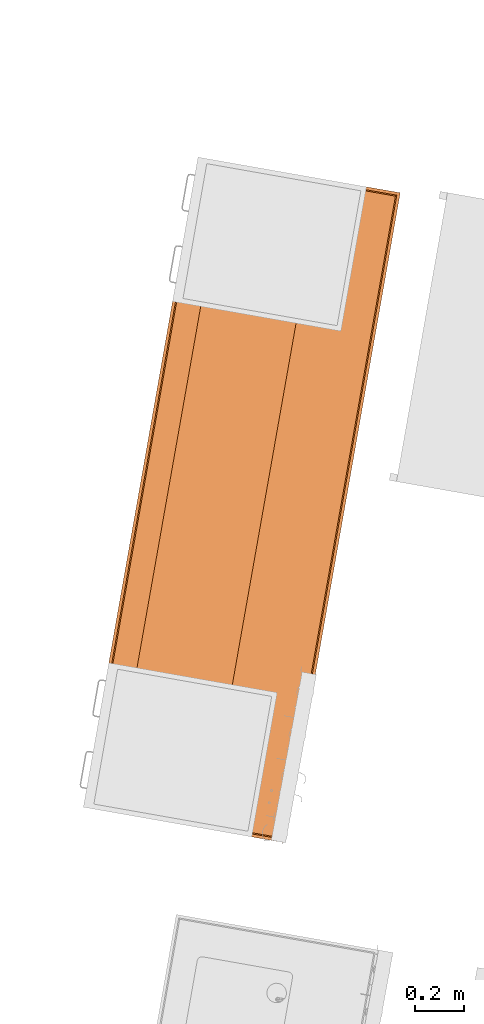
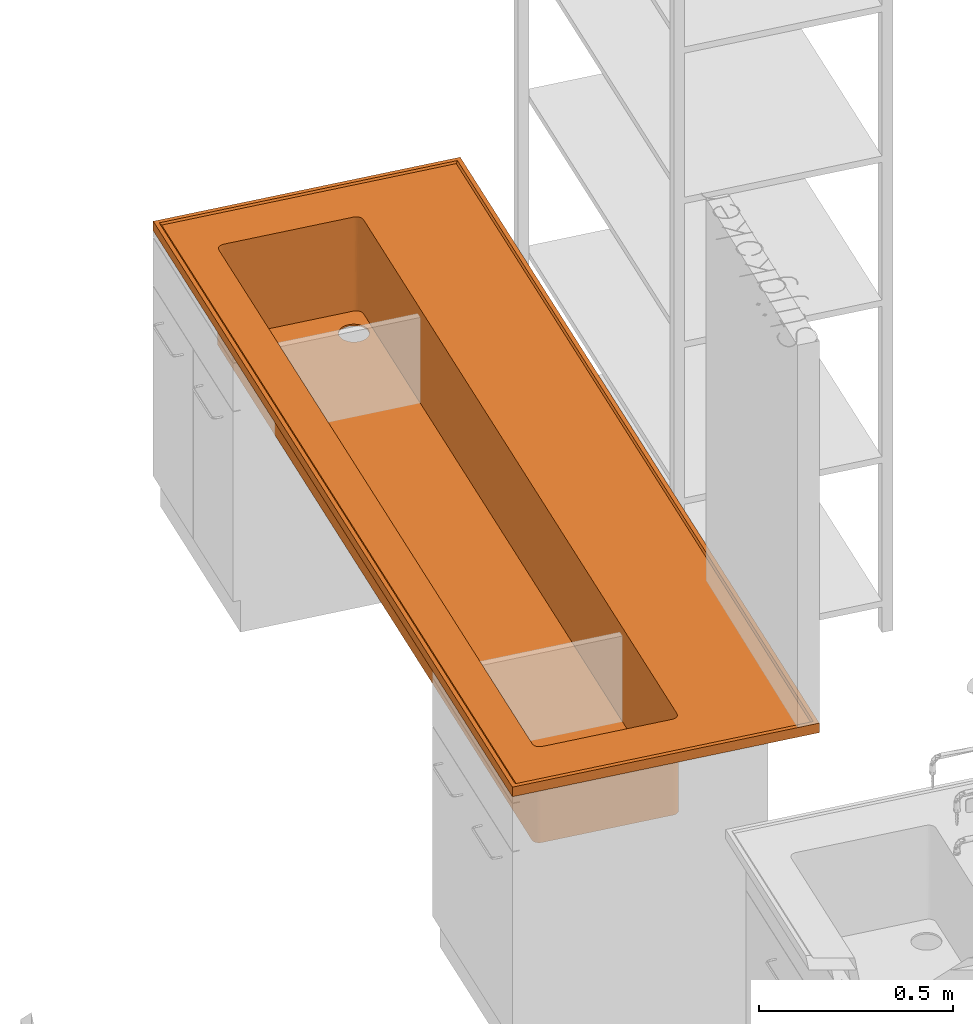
# One storey, part 31 of 32: 1 proxy.
"""IFC2X3 building model written with IfcOpenShell, lengths in metres."""

from ifc_helpers import new_model, entity, si_unit, converted_unit, derived_unit, direction, frame, origin, place, context, subcontext, project, spatial, faceted_brep, source, transform, mapped, material, type_object, type_shapes, element, save


model = new_model("IFC2X3")

# Units and contexts
model_context = context("Model", 3, precision=1e-05, world=origin(), true_north=direction((6.12303176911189e-17, 1.0)))
body_context = subcontext(model_context, "Body", "Model", "MODEL_VIEW")
ifc_project = project(units=[si_unit("LENGTHUNIT", "METRE"), si_unit("AREAUNIT", "SQUARE_METRE"), si_unit("VOLUMEUNIT", "CUBIC_METRE"), converted_unit("PLANEANGLEUNIT", "DEGREE", entity("IfcRatioMeasure", 0.0174532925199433), si_unit("PLANEANGLEUNIT", "RADIAN"), dimensions=[0, 0, 0, 0, 0, 0, 0]), si_unit("MASSUNIT", "GRAM", prefix="KILO"), derived_unit("MASSDENSITYUNIT", [(si_unit("MASSUNIT", "GRAM", prefix="KILO"), 1), (si_unit("LENGTHUNIT", "METRE"), -3)]), derived_unit("MOMENTOFINERTIAUNIT", [(si_unit("LENGTHUNIT", "METRE"), 4)]), si_unit("TIMEUNIT", "SECOND"), si_unit("FREQUENCYUNIT", "HERTZ"), si_unit("THERMODYNAMICTEMPERATUREUNIT", "DEGREE_CELSIUS"), derived_unit("THERMALTRANSMITTANCEUNIT", [(si_unit("MASSUNIT", "GRAM", prefix="KILO"), 1), (si_unit("THERMODYNAMICTEMPERATUREUNIT", "KELVIN"), -1), (si_unit("TIMEUNIT", "SECOND"), -3)]), derived_unit("VOLUMETRICFLOWRATEUNIT", [(si_unit("LENGTHUNIT", "METRE"), 3), (si_unit("TIMEUNIT", "SECOND"), -1)]), si_unit("ELECTRICCURRENTUNIT", "AMPERE"), si_unit("ELECTRICVOLTAGEUNIT", "VOLT"), si_unit("POWERUNIT", "WATT"), si_unit("FORCEUNIT", "NEWTON", prefix="KILO"), si_unit("ILLUMINANCEUNIT", "LUX"), si_unit("LUMINOUSFLUXUNIT", "LUMEN"), si_unit("LUMINOUSINTENSITYUNIT", "CANDELA"), derived_unit("USERDEFINED", [(si_unit("MASSUNIT", "GRAM", prefix="KILO"), -1), (si_unit("LENGTHUNIT", "METRE"), -2), (si_unit("TIMEUNIT", "SECOND"), 3), (si_unit("LUMINOUSFLUXUNIT", "LUMEN"), 1)]), derived_unit("LINEARVELOCITYUNIT", [(si_unit("LENGTHUNIT", "METRE"), 1), (si_unit("TIMEUNIT", "SECOND"), -1)]), si_unit("PRESSUREUNIT", "PASCAL"), derived_unit("USERDEFINED", [(si_unit("LENGTHUNIT", "METRE"), -2), (si_unit("MASSUNIT", "GRAM", prefix="KILO"), 1), (si_unit("TIMEUNIT", "SECOND"), -2)]), derived_unit("LINEARFORCEUNIT", [(si_unit("MASSUNIT", "GRAM", prefix="KILO"), 1), (si_unit("LENGTHUNIT", "METRE"), 1), (si_unit("TIMEUNIT", "SECOND"), -2), (si_unit("LENGTHUNIT", "METRE"), -1)]), derived_unit("PLANARFORCEUNIT", [(si_unit("MASSUNIT", "GRAM", prefix="KILO"), 1), (si_unit("LENGTHUNIT", "METRE"), 1), (si_unit("TIMEUNIT", "SECOND"), -2), (si_unit("LENGTHUNIT", "METRE"), -2)])], contexts=[model_context])

# Site, building, storey
site_placement = place(None, origin())
site = spatial("IfcSite", under=ifc_project, at=site_placement, Name="Default", CompositionType="ELEMENT")
building_placement = place(site_placement, origin())
building = spatial("IfcBuilding", under=site, at=building_placement, CompositionType="ELEMENT")
storey_placement = place(building_placement, origin())
storey = spatial("IfcBuildingStorey", under=building, at=storey_placement, Name="00 EG", CompositionType="ELEMENT", Elevation=0.0)

# Proxy
ifc_material = material(Name="dh_Tischplatte")
building_element_proxy_type = type_object("IfcBuildingElementProxyType", Name="dh_Tischplatte Steinzeug Becken varia:dh_Tischplatte Steinzeug Becken varia", PredefinedType="NOTDEFINED", material=ifc_material)
shared_shape = source(origin(), body_context, "Body", "Brep", [
    faceted_brep([(0.150000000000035, 0.495000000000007, 0.0), (0.155857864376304, 0.509142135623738, 0.0), (0.160000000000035, 0.512320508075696, 0.0), (0.164823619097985, 0.514318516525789, 0.0), (0.152679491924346, 0.505000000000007, 0.0), (0.150681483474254, 0.500176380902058, 0.0), (0.170000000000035, 0.515000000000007, 0.0), (0.206362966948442, 0.470352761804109, 0.0), (0.205000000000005, 0.460000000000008, 0.0), (0.206362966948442, 0.449647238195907, 0.0), (0.210358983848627, 0.440000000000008, 0.0), (0.150000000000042, 0.135000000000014, 0.0), (0.210358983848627, 0.480000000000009, 0.0), (0.216715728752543, 0.48828427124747, 0.0), (0.225000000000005, 0.494641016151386, 0.0), (0.234647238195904, 0.498637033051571, 0.0), (0.245000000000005, 0.500000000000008, 0.0), (0.255352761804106, 0.498637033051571, 0.0), (2.53000000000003, 0.515000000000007, 0.0), (0.265000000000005, 0.494641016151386, 0.0), (0.273284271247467, 0.48828427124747, 0.0), (0.279641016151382, 0.480000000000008, 0.0), (0.283637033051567, 0.470352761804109, 0.0), (0.285000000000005, 0.460000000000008, 0.0), (2.53000000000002, 0.115000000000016, 0.0), (2.55000000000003, 0.495000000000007, 0.0), (2.53517638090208, 0.514318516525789, 0.0), (2.54000000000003, 0.512320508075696, 0.0), (2.54414213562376, 0.509142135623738, 0.0), (2.54732050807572, 0.505000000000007, 0.0), (2.54931851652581, 0.500176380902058, 0.0), (2.55000000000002, 0.135000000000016, 0.0), (2.53517638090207, 0.115681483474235, 0.0), (2.54000000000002, 0.117679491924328, 0.0), (2.54414213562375, 0.120857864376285, 0.0), (2.54732050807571, 0.125000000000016, 0.0), (2.54931851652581, 0.129823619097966, 0.0), (0.283637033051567, 0.449647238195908, 0.0), (0.279641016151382, 0.440000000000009, 0.0), (0.170000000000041, 0.115000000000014, 0.0), (0.164823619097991, 0.115681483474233, 0.0), (0.255352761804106, 0.421362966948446, 0.0), (0.265000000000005, 0.425358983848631, 0.0), (0.273284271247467, 0.431715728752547, 0.0), (0.160000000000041, 0.117679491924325, 0.0), (0.155857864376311, 0.120857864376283, 0.0), (0.152679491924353, 0.125000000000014, 0.0), (0.15068148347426, 0.129823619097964, 0.0), (0.216715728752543, 0.431715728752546, 0.0), (0.225000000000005, 0.425358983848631, 0.0), (0.234647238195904, 0.421362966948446, 0.0), (0.245000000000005, 0.420000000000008, 0.0), (2.54532050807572, 0.503000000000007, 0.3), (2.54732050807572, 0.505000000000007, 0.3), (2.54214213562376, 0.507142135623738, 0.3), (2.54931851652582, 0.500176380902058, 0.3), (2.54731851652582, 0.498176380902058, 0.3), (2.55000000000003, 0.495000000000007, 0.3), (2.54800000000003, 0.493000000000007, 0.3), (2.55000000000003, 0.135000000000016, 0.3), (2.54800000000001, 0.137000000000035, 0.3), (2.54731851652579, 0.131823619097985, 0.3), (2.54931851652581, 0.129823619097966, 0.3), (2.5453205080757, 0.127000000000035, 0.3), (2.54732050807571, 0.125000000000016, 0.3), (2.54214213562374, 0.122857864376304, 0.3), (2.54414213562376, 0.120857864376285, 0.3), (2.54000000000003, 0.117679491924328, 0.3), (2.53800000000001, 0.119679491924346, 0.3), (2.53517638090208, 0.115681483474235, 0.3), (2.53317638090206, 0.117681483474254, 0.3), (2.53000000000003, 0.115000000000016, 0.3), (2.52800000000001, 0.117000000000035, 0.3), (0.170000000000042, 0.115000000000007, 0.300000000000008), (0.172000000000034, 0.117000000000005, 0.300000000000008), (0.166823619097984, 0.117681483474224, 0.300000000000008), (0.164823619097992, 0.115681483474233, 0.300000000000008), (0.162000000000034, 0.119679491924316, 0.300000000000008), (0.160000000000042, 0.117679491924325, 0.300000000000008), (0.157857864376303, 0.122857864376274, 0.300000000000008), (0.155857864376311, 0.120857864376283, 0.300000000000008), (0.152679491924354, 0.125000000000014, 0.300000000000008), (0.154679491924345, 0.127000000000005, 0.300000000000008), (0.150681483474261, 0.129823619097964, 0.300000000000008), (0.152681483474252, 0.131823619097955, 0.300000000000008), (0.150000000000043, 0.135000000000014, 0.300000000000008), (0.152000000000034, 0.137000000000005, 0.300000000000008), (0.150000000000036, 0.495000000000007, 0.300000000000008), (0.152000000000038, 0.493000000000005, 0.300000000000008), (0.152681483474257, 0.498176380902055, 0.300000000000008), (0.150681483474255, 0.500176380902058, 0.300000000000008), (0.15467949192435, 0.503000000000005, 0.300000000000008), (0.152679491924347, 0.505000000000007, 0.300000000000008), (0.157857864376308, 0.507142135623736, 0.300000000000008), (0.155857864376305, 0.509142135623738, 0.300000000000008), (0.160000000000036, 0.512320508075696, 0.300000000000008), (0.162000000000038, 0.510320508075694, 0.300000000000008), (0.164823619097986, 0.514318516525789, 0.300000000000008), (0.166823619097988, 0.512318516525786, 0.300000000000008), (0.170000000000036, 0.515000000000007, 0.300000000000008), (0.172000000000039, 0.513000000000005, 0.300000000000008), (2.52800000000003, 0.513000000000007, 0.3), (2.53000000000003, 0.515000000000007, 0.3), (2.53317638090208, 0.512318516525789, 0.3), (2.53517638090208, 0.514318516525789, 0.3), (2.53800000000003, 0.510320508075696, 0.3), (2.54000000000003, 0.512320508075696, 0.3), (2.54414213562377, 0.509142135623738, 0.3), (2.53000000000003, 0.515000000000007, 0.150000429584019), (0.170000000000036, 0.515000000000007, 0.15000036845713), (0.150000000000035, 0.495000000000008, 0.150000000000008), (0.150000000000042, 0.135000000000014, 0.150000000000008), (0.170000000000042, 0.115000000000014, 0.150000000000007), (2.53000000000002, 0.115000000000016, 0.15), (2.55000000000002, 0.135000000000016, 0.149999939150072), (2.55000000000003, 0.495000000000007, 0.15), (0.162000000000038, 0.510320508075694, 0.00500000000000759), (0.157857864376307, 0.507142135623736, 0.00500000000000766), (0.152000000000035, 0.493000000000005, 0.00500000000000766), (0.166823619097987, 0.512318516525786, 0.00500000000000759), (0.154679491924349, 0.503000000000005, 0.00500000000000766), (0.152681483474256, 0.498176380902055, 0.00500000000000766), (0.172000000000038, 0.513000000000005, 0.00500000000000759), (0.206362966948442, 0.470352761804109, 0.00500000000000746), (0.205000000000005, 0.460000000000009, 0.00500000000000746), (0.206362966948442, 0.449647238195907, 0.00500000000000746), (0.210358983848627, 0.440000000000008, 0.00500000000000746), (0.152000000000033, 0.137000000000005, 0.00500000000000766), (0.216715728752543, 0.431715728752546, 0.00500000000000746), (0.225000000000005, 0.425358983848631, 0.00500000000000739), (0.234647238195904, 0.421362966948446, 0.00500000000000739), (0.245000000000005, 0.420000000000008, 0.00500000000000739), (0.255352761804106, 0.421362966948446, 0.00500000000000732), (0.172000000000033, 0.117000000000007, 0.00500000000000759), (0.166823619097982, 0.117681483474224, 0.00500000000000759), (0.162000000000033, 0.119679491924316, 0.00500000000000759), (0.157857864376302, 0.122857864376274, 0.00500000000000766), (0.154679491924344, 0.127000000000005, 0.00500000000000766), (0.152681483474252, 0.131823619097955, 0.00500000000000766), (0.265000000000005, 0.425358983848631, 0.00500000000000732), (0.273284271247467, 0.431715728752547, 0.00500000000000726), (0.279641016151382, 0.440000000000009, 0.00500000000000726), (2.52800000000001, 0.117000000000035, 0.00500000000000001), (0.283637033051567, 0.449647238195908, 0.00500000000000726), (0.285000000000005, 0.460000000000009, 0.00500000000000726), (2.52800000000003, 0.513000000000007, 0.00500000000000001), (2.54800000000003, 0.493000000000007, 0.00499999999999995), (2.54800000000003, 0.137000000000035, 0.00499999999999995), (2.53317638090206, 0.117681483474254, 0.00500000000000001), (2.53800000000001, 0.119679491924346, 0.00500000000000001), (2.54214213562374, 0.122857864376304, 0.00500000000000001), (2.54532050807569, 0.127000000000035, 0.00499999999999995), (2.54731851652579, 0.131823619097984, 0.00499999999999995), (2.53317638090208, 0.512318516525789, 0.00500000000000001), (2.53800000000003, 0.510320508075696, 0.00500000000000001), (2.54214213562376, 0.507142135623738, 0.00500000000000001), (2.54532050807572, 0.503000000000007, 0.00499999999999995), (2.54731851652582, 0.498176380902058, 0.00499999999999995), (0.283637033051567, 0.470352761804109, 0.00500000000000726), (0.279641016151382, 0.480000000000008, 0.00500000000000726), (0.273284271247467, 0.48828427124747, 0.00500000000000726), (0.265000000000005, 0.494641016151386, 0.00500000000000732), (0.255352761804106, 0.498637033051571, 0.00500000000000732), (0.245000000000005, 0.500000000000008, 0.00500000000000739), (0.210358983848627, 0.480000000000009, 0.00500000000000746), (0.216715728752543, 0.48828427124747, 0.00500000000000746), (0.225000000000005, 0.494641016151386, 0.00500000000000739), (0.234647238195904, 0.498637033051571, 0.00500000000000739), (0.172000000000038, 0.513000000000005, 0.152500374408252), (2.52800000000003, 0.513000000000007, 0.1525), (0.152000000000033, 0.137000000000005, 0.152500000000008), (0.152000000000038, 0.493000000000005, 0.152500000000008), (2.52800000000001, 0.117000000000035, 0.1525), (0.172000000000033, 0.117000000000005, 0.152500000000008), (2.54800000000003, 0.493000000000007, 0.1525), (2.54800000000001, 0.137000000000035, 0.1525), (0.164346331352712, 0.51147759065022, 0.152499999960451), (0.153522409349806, 0.500653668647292, 0.152499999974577), (0.152384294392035, 0.496901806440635, 0.187662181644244), (0.168098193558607, 0.512615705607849, 0.117337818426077), (0.159824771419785, 0.508867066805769, 0.136631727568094), (0.156132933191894, 0.505175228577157, 0.168368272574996), (0.153522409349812, 0.129346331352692, 0.152499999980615), (0.164346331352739, 0.118522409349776, 0.152499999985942), (0.168098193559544, 0.117384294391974, 0.187662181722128), (0.152384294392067, 0.13309819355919, 0.117337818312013), (0.156132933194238, 0.124824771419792, 0.136631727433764), (0.159824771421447, 0.121132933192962, 0.168368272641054), (2.5356536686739, 0.118522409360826, 0.152500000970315), (2.54761570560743, 0.133098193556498, 0.187662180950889), (2.53190180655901, 0.117384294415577, 0.117337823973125), (2.54017522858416, 0.121132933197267, 0.136631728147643), (2.54647759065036, 0.129346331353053, 0.152499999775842), (2.54386706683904, 0.12482477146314, 0.168368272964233), (2.54647759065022, 0.50065366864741, 0.152499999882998), (2.5356536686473, 0.511477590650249, 0.152499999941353), (2.5319018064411, 0.512615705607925, 0.187662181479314), (2.54761570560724, 0.496901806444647, 0.117337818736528), (2.54386706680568, 0.505175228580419, 0.136631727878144), (2.54017522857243, 0.508867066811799, 0.168368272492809), (0.162346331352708, 0.513477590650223, 0.149999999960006), (0.150384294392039, 0.49890180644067, 0.187055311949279), (0.151522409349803, 0.502653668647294, 0.149999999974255), (0.166098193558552, 0.514615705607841, 0.112944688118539), (0.157824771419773, 0.510867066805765, 0.131917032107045), (0.154132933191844, 0.507175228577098, 0.168082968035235), (0.151522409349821, 0.127346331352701, 0.149999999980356), (0.166098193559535, 0.115384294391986, 0.187055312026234), (0.162346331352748, 0.116522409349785, 0.149999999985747), (0.15038429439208, 0.131098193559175, 0.112944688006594), (0.154132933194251, 0.122824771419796, 0.131917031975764), (0.157824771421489, 0.119132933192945, 0.168082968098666), (2.5376536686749, 0.116522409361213, 0.150000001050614), (2.54961570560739, 0.131098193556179, 0.187055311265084), (2.53390180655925, 0.115384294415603, 0.112944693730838), (2.54217522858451, 0.119132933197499, 0.131917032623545), (2.54847759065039, 0.127346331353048, 0.149999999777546), (2.54586706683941, 0.122824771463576, 0.168082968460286), (2.54847759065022, 0.502653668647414, 0.149999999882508), (2.53390180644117, 0.51461570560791, 0.187055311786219), (2.53765366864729, 0.51347759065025, 0.149999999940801), (2.5496157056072, 0.498901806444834, 0.112944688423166), (2.54586706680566, 0.507175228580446, 0.131917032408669), (2.54217522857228, 0.510867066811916, 0.168082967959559)], [[[0, 1, 2]], [[0, 2, 3]], [[0, 4, 1]], [[0, 5, 4]], [[3, 6, 0]], [[6, 7, 0]], [[0, 7, 8]], [[0, 8, 9]], [[0, 9, 10]], [[11, 0, 10]], [[12, 7, 6]], [[12, 6, 13]], [[14, 13, 6]], [[6, 15, 14]], [[6, 16, 15]], [[16, 6, 17]], [[17, 6, 18]], [[19, 17, 18]], [[20, 19, 18]], [[20, 18, 21]], [[22, 21, 18]], [[23, 22, 18]], [[23, 18, 24]], [[24, 18, 25]], [[25, 18, 26]], [[25, 26, 27]], [[28, 25, 27]], [[28, 29, 25]], [[30, 25, 29]], [[25, 31, 24]], [[24, 31, 32]], [[33, 32, 31]], [[34, 33, 31]], [[31, 35, 34]], [[35, 31, 36]], [[24, 37, 23]], [[38, 37, 24]], [[38, 24, 39]], [[11, 39, 40]], [[11, 41, 39]], [[42, 39, 41]], [[43, 39, 42]], [[39, 43, 38]], [[44, 11, 40]], [[11, 44, 45]], [[46, 11, 45]], [[11, 46, 47]], [[48, 11, 10]], [[11, 48, 49]], [[49, 50, 11]], [[51, 11, 50]], [[41, 11, 51]], [[52, 53, 54]], [[53, 52, 55]], [[55, 52, 56]], [[57, 55, 56]], [[56, 58, 57]], [[57, 58, 59]], [[60, 59, 58]], [[59, 60, 61]], [[59, 61, 62]], [[62, 61, 63]], [[64, 62, 63]], [[65, 64, 63]], [[64, 65, 66]], [[65, 67, 66]], [[65, 68, 67]], [[67, 68, 69]], [[68, 70, 69]], [[71, 69, 70]], [[72, 71, 70]], [[71, 72, 73]], [[74, 73, 72]], [[74, 75, 73]], [[73, 75, 76]], [[75, 77, 76]], [[77, 78, 76]], [[77, 79, 78]], [[79, 80, 78]], [[79, 81, 80]], [[81, 79, 82]], [[83, 81, 82]], [[82, 84, 83]], [[84, 85, 83]], [[84, 86, 85]], [[85, 86, 87]], [[88, 87, 86]], [[88, 89, 87]], [[90, 87, 89]], [[89, 91, 90]], [[91, 92, 90]], [[92, 91, 93]], [[92, 93, 94]], [[93, 95, 94]], [[95, 93, 96]], [[97, 95, 96]], [[98, 97, 96]], [[98, 99, 97]], [[98, 100, 99]], [[99, 100, 101]], [[101, 102, 99]], [[103, 102, 101]], [[103, 104, 102]], [[104, 103, 105]], [[54, 106, 105]], [[105, 106, 104]], [[54, 53, 107]], [[106, 54, 107]], [[102, 108, 18, 6, 109, 99]], [[87, 110, 0, 11, 111, 85]], [[71, 73, 112, 39, 24, 113]], [[59, 114, 31, 25, 115, 57]], [[116, 117, 118]], [[119, 116, 118]], [[117, 120, 118]], [[120, 121, 118]], [[118, 122, 119]], [[118, 123, 122]], [[124, 123, 118]], [[125, 124, 118]], [[126, 125, 118]], [[126, 118, 127]], [[126, 127, 128]], [[129, 128, 127]], [[127, 130, 129]], [[130, 127, 131]], [[131, 127, 132]], [[133, 132, 127]], [[134, 133, 127]], [[134, 127, 135]], [[136, 135, 127]], [[136, 127, 137]], [[138, 137, 127]], [[132, 133, 139]], [[139, 133, 140]], [[141, 140, 133]], [[133, 142, 141]], [[142, 143, 141]], [[144, 143, 142]], [[142, 145, 144]], [[146, 145, 142]], [[142, 147, 146]], [[148, 147, 142]], [[147, 148, 149]], [[147, 149, 150]], [[150, 151, 147]], [[152, 147, 151]], [[153, 145, 146]], [[154, 153, 146]], [[154, 146, 155]], [[146, 156, 155]], [[156, 146, 157]], [[145, 158, 144]], [[145, 159, 158]], [[159, 145, 160]], [[145, 161, 160]], [[145, 162, 161]], [[145, 122, 162]], [[162, 122, 163]], [[122, 123, 164]], [[165, 122, 164]], [[122, 165, 166]], [[166, 167, 122]], [[167, 163, 122]], [[100, 168, 122, 145, 169, 101]], [[86, 170, 127, 118, 171, 88]], [[72, 172, 142, 133, 173, 74]], [[58, 174, 146, 147, 175, 60]], [[23, 144, 158, 22]], [[22, 158, 159, 21]], [[19, 20, 160, 161]], [[160, 20, 21, 159]], [[17, 19, 161, 162]], [[17, 162, 163, 16]], [[16, 163, 167, 15]], [[15, 167, 166, 14]], [[12, 13, 165, 164]], [[165, 13, 14, 166]], [[7, 12, 164, 123]], [[7, 123, 124, 8]], [[8, 124, 125, 9]], [[9, 125, 126, 10]], [[49, 48, 128, 129]], [[128, 48, 10, 126]], [[50, 49, 129, 130]], [[50, 130, 131, 51]], [[51, 131, 132, 41]], [[41, 132, 139, 42]], [[38, 43, 140, 141]], [[140, 43, 42, 139]], [[37, 38, 141, 143]], [[37, 143, 144, 23]], [[116, 119, 176]], [[177, 178, 121]], [[168, 179, 122]], [[116, 176, 180]], [[180, 117, 116]], [[176, 119, 179]], [[89, 88, 178]], [[100, 98, 168]], [[176, 98, 96]], [[122, 179, 119]], [[180, 176, 96]], [[171, 178, 88]], [[121, 120, 177]], [[117, 180, 181]], [[181, 180, 93]], [[171, 118, 121]], [[181, 120, 117]], [[91, 177, 181]], [[98, 179, 168]], [[91, 89, 177]], [[89, 178, 177]], [[93, 180, 96]], [[121, 178, 171]], [[181, 177, 120]], [[176, 179, 98]], [[93, 91, 181]], [[137, 138, 182]], [[183, 184, 134]], [[170, 185, 127]], [[137, 182, 186]], [[186, 136, 137]], [[182, 138, 185]], [[75, 74, 184]], [[86, 84, 170]], [[182, 84, 82]], [[127, 185, 138]], [[186, 182, 82]], [[173, 184, 74]], [[134, 135, 183]], [[136, 186, 187]], [[187, 186, 79]], [[173, 133, 134]], [[187, 135, 136]], [[77, 183, 187]], [[84, 185, 170]], [[77, 75, 183]], [[75, 184, 183]], [[79, 186, 82]], [[134, 184, 173]], [[187, 183, 135]], [[182, 185, 84]], [[79, 77, 187]], [[149, 148, 188]], [[61, 60, 189]], [[172, 190, 142]], [[149, 188, 191]], [[70, 172, 72]], [[175, 189, 60]], [[191, 150, 149]], [[148, 190, 188]], [[188, 70, 68]], [[148, 142, 190]], [[191, 188, 68]], [[192, 189, 152]], [[152, 151, 192]], [[150, 191, 193]], [[193, 191, 65]], [[175, 147, 152]], [[193, 151, 150]], [[63, 192, 193]], [[70, 190, 172]], [[63, 61, 192]], [[61, 189, 192]], [[65, 191, 68]], [[152, 189, 175]], [[193, 192, 151]], [[188, 190, 70]], [[65, 63, 193]], [[156, 157, 194]], [[195, 196, 153]], [[174, 197, 146]], [[156, 194, 198]], [[198, 155, 156]], [[194, 157, 197]], [[103, 101, 196]], [[58, 56, 174]], [[194, 56, 52]], [[146, 197, 157]], [[198, 194, 52]], [[169, 196, 101]], [[153, 154, 195]], [[155, 198, 199]], [[199, 198, 54]], [[169, 145, 153]], [[199, 154, 155]], [[105, 195, 199]], [[56, 197, 174]], [[105, 103, 195]], [[103, 196, 195]], [[54, 198, 52]], [[153, 196, 169]], [[199, 195, 154]], [[194, 197, 56]], [[54, 105, 199]], [[200, 3, 2]], [[5, 201, 202]], [[6, 203, 109]], [[204, 200, 2]], [[2, 1, 204]], [[203, 3, 200]], [[201, 87, 90]], [[109, 97, 99]], [[95, 97, 200]], [[3, 203, 6]], [[95, 200, 204]], [[87, 201, 110]], [[202, 4, 5]], [[205, 204, 1]], [[94, 204, 205]], [[5, 0, 110]], [[1, 4, 205]], [[205, 202, 92]], [[109, 203, 97]], [[202, 90, 92]], [[202, 201, 90]], [[95, 204, 94]], [[110, 201, 5]], [[4, 202, 205]], [[97, 203, 200]], [[205, 92, 94]], [[206, 47, 46]], [[40, 207, 208]], [[11, 209, 111]], [[210, 206, 46]], [[46, 45, 210]], [[209, 47, 206]], [[207, 73, 76]], [[111, 83, 85]], [[81, 83, 206]], [[47, 209, 11]], [[81, 206, 210]], [[73, 207, 112]], [[208, 44, 40]], [[211, 210, 45]], [[80, 210, 211]], [[40, 39, 112]], [[45, 44, 211]], [[211, 208, 78]], [[111, 209, 83]], [[208, 76, 78]], [[208, 207, 76]], [[81, 210, 80]], [[112, 207, 40]], [[44, 208, 211]], [[83, 209, 206]], [[211, 78, 80]], [[212, 32, 33]], [[213, 59, 62]], [[24, 214, 113]], [[215, 212, 33]], [[71, 113, 69]], [[59, 213, 114]], [[33, 34, 215]], [[212, 214, 32]], [[67, 69, 212]], [[214, 24, 32]], [[67, 212, 215]], [[36, 213, 216]], [[216, 35, 36]], [[217, 215, 34]], [[66, 215, 217]], [[36, 31, 114]], [[34, 35, 217]], [[217, 216, 64]], [[113, 214, 69]], [[216, 62, 64]], [[216, 213, 62]], [[67, 215, 66]], [[114, 213, 36]], [[35, 216, 217]], [[69, 214, 212]], [[217, 64, 66]], [[218, 30, 29]], [[26, 219, 220]], [[25, 221, 115]], [[222, 218, 29]], [[29, 28, 222]], [[221, 30, 218]], [[219, 102, 104]], [[115, 55, 57]], [[53, 55, 218]], [[30, 221, 25]], [[53, 218, 222]], [[102, 219, 108]], [[220, 27, 26]], [[223, 222, 28]], [[107, 222, 223]], [[26, 18, 108]], [[28, 27, 223]], [[223, 220, 106]], [[115, 221, 55]], [[220, 104, 106]], [[220, 219, 104]], [[53, 222, 107]], [[108, 219, 26]], [[27, 220, 223]], [[55, 221, 218]], [[223, 106, 107]]]),
    faceted_brep([(2.68300000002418, 0.823000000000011, 0.3), (2.54532050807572, 0.503000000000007, 0.3), (2.54731851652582, 0.498176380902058, 0.3), (2.54214213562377, 0.507142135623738, 0.3), (2.54800000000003, 0.493000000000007, 0.3), (2.68300000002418, 0.017000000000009, 0.3), (2.53800000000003, 0.510320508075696, 0.3), (2.53317638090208, 0.512318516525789, 0.3), (2.52800000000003, 0.513000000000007, 0.3), (0.0170000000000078, 0.823000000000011, 0.300000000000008), (0.172000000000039, 0.513000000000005, 0.300000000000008), (0.166823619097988, 0.512318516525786, 0.300000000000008), (0.162000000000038, 0.510320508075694, 0.300000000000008), (0.157857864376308, 0.507142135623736, 0.300000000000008), (0.15467949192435, 0.503000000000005, 0.300000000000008), (0.152681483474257, 0.498176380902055, 0.300000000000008), (0.152000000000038, 0.493000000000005, 0.300000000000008), (0.0170000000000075, 0.0170000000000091, 0.300000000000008), (2.52800000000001, 0.117000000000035, 0.3), (0.152000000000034, 0.137000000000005, 0.300000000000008), (0.152681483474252, 0.131823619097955, 0.300000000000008), (0.154679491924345, 0.127000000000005, 0.300000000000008), (0.157857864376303, 0.122857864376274, 0.300000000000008), (0.162000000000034, 0.119679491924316, 0.300000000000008), (0.166823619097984, 0.117681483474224, 0.300000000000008), (0.172000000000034, 0.117000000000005, 0.300000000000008), (2.53317638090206, 0.117681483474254, 0.3), (2.54800000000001, 0.137000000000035, 0.3), (2.54731851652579, 0.131823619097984, 0.3), (2.5453205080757, 0.127000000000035, 0.3), (2.54214213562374, 0.122857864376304, 0.3), (2.53800000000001, 0.119679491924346, 0.3), (0.0, 0.840000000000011, 0.275000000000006), (0.15467949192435, 0.503000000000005, 0.275000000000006), (0.152681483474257, 0.498176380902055, 0.275000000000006), (0.157857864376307, 0.507142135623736, 0.275000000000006), (0.152000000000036, 0.493000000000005, 0.275000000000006), (0.0, 0.0, 0.275000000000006), (0.162000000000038, 0.510320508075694, 0.275000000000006), (0.166823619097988, 0.512318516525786, 0.275000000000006), (0.172000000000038, 0.513000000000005, 0.275000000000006), (2.52800000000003, 0.513000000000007, 0.274999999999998), (2.70000000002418, 0.840000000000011, 0.274999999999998), (2.53317638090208, 0.512318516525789, 0.274999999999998), (2.53800000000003, 0.510320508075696, 0.274999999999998), (2.54214213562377, 0.507142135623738, 0.274999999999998), (2.54532050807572, 0.503000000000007, 0.274999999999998), (2.54731851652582, 0.498176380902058, 0.274999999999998), (2.54800000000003, 0.493000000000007, 0.274999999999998), (2.70000000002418, 0.0, 0.274999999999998), (2.54800000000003, 0.137000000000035, 0.274999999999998), (2.54731851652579, 0.131823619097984, 0.274999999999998), (2.5453205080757, 0.127000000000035, 0.274999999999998), (2.54214213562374, 0.122857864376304, 0.274999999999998), (2.53800000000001, 0.119679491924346, 0.274999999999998), (2.53317638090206, 0.117681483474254, 0.274999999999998), (2.52800000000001, 0.117000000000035, 0.274999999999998), (0.152000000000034, 0.137000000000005, 0.275000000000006), (0.152681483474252, 0.131823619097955, 0.275000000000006), (0.154679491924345, 0.127000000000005, 0.275000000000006), (0.157857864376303, 0.122857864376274, 0.275000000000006), (0.162000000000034, 0.119679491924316, 0.275000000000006), (0.166823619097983, 0.117681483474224, 0.275000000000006), (0.172000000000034, 0.117000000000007, 0.275000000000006), (0.0, 0.840000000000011, 0.305000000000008), (2.70000000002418, 0.840000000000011, 0.304999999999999), (0.0, 0.0, 0.305000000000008), (2.70000000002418, 0.0, 0.304999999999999), (0.0120000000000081, 0.82800000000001, 0.305000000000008), (2.68800000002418, 0.828000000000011, 0.304999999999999), (2.68800000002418, 0.0120000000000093, 0.304999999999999), (0.0120000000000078, 0.0120000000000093, 0.305000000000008)], [[[0, 1, 2]], [[1, 0, 3]], [[2, 4, 0]], [[0, 4, 5]], [[6, 3, 0]], [[7, 6, 0]], [[8, 7, 0]], [[0, 9, 8]], [[10, 8, 9]], [[11, 10, 9]], [[11, 9, 12]], [[13, 12, 9]], [[9, 14, 13]], [[14, 9, 15]], [[16, 15, 9]], [[9, 17, 16]], [[5, 18, 17]], [[19, 16, 17]], [[20, 19, 17]], [[17, 21, 20]], [[21, 17, 22]], [[23, 22, 17]], [[23, 17, 24]], [[25, 24, 17]], [[25, 17, 18]], [[26, 18, 5]], [[27, 5, 4]], [[27, 28, 5]], [[29, 5, 28]], [[5, 29, 30]], [[30, 31, 5]], [[31, 26, 5]], [[32, 33, 34]], [[33, 32, 35]], [[34, 36, 32]], [[32, 36, 37]], [[38, 35, 32]], [[39, 38, 32]], [[40, 39, 32]], [[32, 41, 40]], [[41, 32, 42]], [[43, 41, 42]], [[43, 42, 44]], [[45, 44, 42]], [[42, 46, 45]], [[46, 42, 47]], [[48, 47, 42]], [[42, 49, 48]], [[50, 48, 49]], [[51, 50, 49]], [[49, 52, 51]], [[52, 49, 53]], [[54, 53, 49]], [[54, 49, 55]], [[56, 55, 49]], [[56, 49, 37]], [[57, 37, 36]], [[57, 58, 37]], [[59, 37, 58]], [[37, 59, 60]], [[60, 61, 37]], [[61, 62, 37]], [[62, 63, 37]], [[37, 63, 56]], [[64, 65, 42, 32]], [[66, 64, 32, 37]], [[67, 66, 37, 49]], [[65, 67, 49, 42]], [[68, 9, 0, 69]], [[69, 0, 5, 70]], [[70, 5, 17, 71]], [[71, 17, 9, 68]], [[67, 70, 71]], [[70, 67, 69]], [[71, 66, 67]], [[65, 69, 67]], [[69, 65, 68]], [[64, 68, 65]], [[68, 64, 66]], [[66, 71, 68]], [[41, 8, 10, 40]], [[36, 16, 19, 57]], [[56, 63, 25, 18]], [[48, 50, 27, 4]], [[39, 40, 10, 11]], [[38, 39, 11, 12]], [[38, 12, 13, 35]], [[33, 35, 13, 14]], [[34, 33, 14, 15]], [[15, 16, 36, 34]], [[58, 57, 19, 20]], [[59, 58, 20, 21]], [[59, 21, 22, 60]], [[62, 61, 23, 24]], [[63, 62, 24, 25]], [[22, 23, 61, 60]], [[55, 56, 18, 26]], [[54, 55, 26, 31]], [[54, 31, 30, 53]], [[29, 52, 53, 30]], [[51, 52, 29, 28]], [[28, 27, 50, 51]], [[47, 48, 4, 2]], [[46, 47, 2, 1]], [[46, 1, 3, 45]], [[44, 45, 3, 6]], [[43, 44, 6, 7]], [[7, 8, 41, 43]]]),
])
type_shapes(building_element_proxy_type, [shared_shape])
proxy_placement = place(storey_placement, frame((26.7517671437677, 21.7986348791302, 0.594999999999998), z_axis=(0.0, 0.0, 1.0), x_axis=(-0.173648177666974, -0.9848077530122, 0.0)))
element("IfcBuildingElementProxy", 1, at=proxy_placement, inside=storey, type_object=building_element_proxy_type, material=ifc_material, Name="dh_Tischplatte Steinzeug Becken varia:dh_Tischplatte Steinzeug Becken varia", ObjectType="dh_Tischplatte Steinzeug Becken varia:dh_Tischplatte Steinzeug Becken varia", context=body_context, shape_type="MappedRepresentation", body=[
    mapped(shared_shape, transform((0.0, 0.0, 0.0), scale=1.0)),
])

save(model, "model.ifc")
